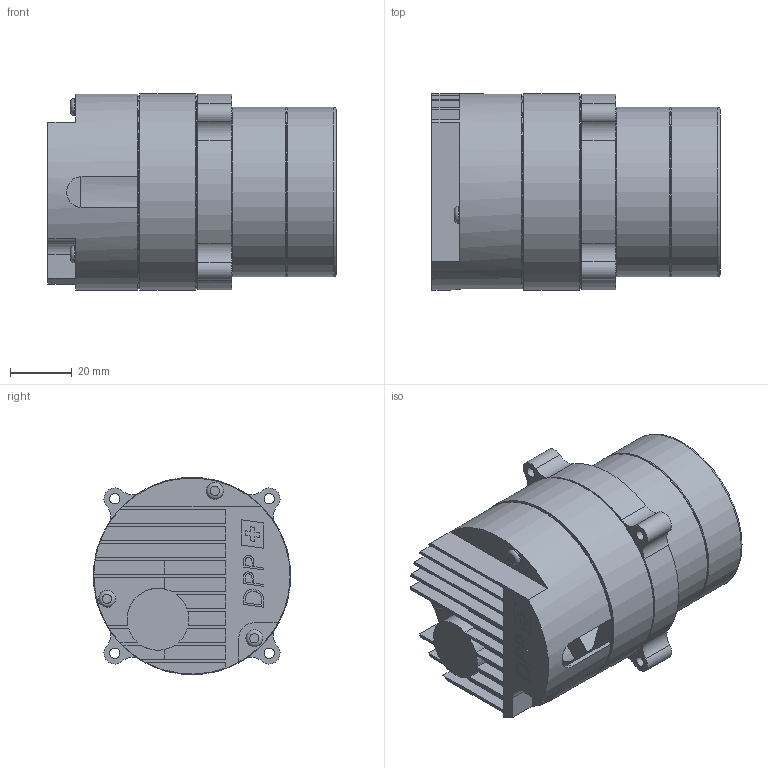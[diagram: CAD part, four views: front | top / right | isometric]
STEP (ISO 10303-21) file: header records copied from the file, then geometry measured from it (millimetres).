
FILE_DESCRIPTION (( 'STEP AP214' ), '1' );
FILE_NAME ('Silencer 1500 - 65W Adv Motor.STEP', '2020-04-22T20:58:00', ( '' ), ( '' ), 'SwSTEP 2.0', 'SolidWorks 2019', '' );
FILE_SCHEMA (( 'AUTOMOTIVE_DESIGN' ));
Length unit declared in the file: millimetre
Products named in the file (19): Silencer 1500 - 65W Adv Motor; PD02-CU-00; PD01-SC-00; PD02-BO-00; Copy of SO0015^Adv Stator WN02; Copy of LS0003^Adv Stator WN02; Adv Stator MB; PD02-PU-01; PD02-EP-00; Copy of SO0016^Adv Stator WN02; Adv Stator CV; PD03-SC-4; Adv Stator WN02; PD02-BB-00
Assembly tree (20 placements, depth 4):
  Silencer 1500 - 65W Adv Motor
    PD02-PU-01
      PD01-SC-00
      PD02-CU-00
      PD02-BO-00
        PD02-BB-00
      PD02-EP-00
      PD01-SC-00
      PD01-SC-00
      PD01-SC-00
      PD01-SC-00
      PD01-SC-00
      Adv Stator MB
    Adv Stator WN02
      Copy of LS0003^Adv Stator WN02
      Copy of SO0015^Adv Stator WN02
      Copy of SO0016^Adv Stator WN02
    Adv Stator CV
    PD03-SC-4  x3
Bounding box: 93.36 x 63.76 x 63.76 mm (x, y, z)
Volume: 150200.9 mm3; surface area: 77262.7 mm2
Topology: 17 solids, 17 shells, 962 faces, 2533 edges, 1622 vertices
Faces by surface type: cylinder 380, plane 377, torus 92, bspline 89, cone 24
Full cylindrical faces by diameter (mm): 2.35 x6, 2.989 x12, 3 x9, 3.3 x6, 3.5 x3, 3.6 x6, 3.8 x12, 4 x12, 5.5 x9, 6 x2, 8.4 x2, 17 x1, 26 x1, 36.1 x1, 36.7 x1, 42.7 x2, 54.8 x2, 60.5 x1, 60.62 x1, 63.5 x1, 64 x1
Entity records: 32981 total; most frequent: CARTESIAN_POINT 9133, DIRECTION 4781, ORIENTED_EDGE 4662, EDGE_CURVE 2331, AXIS2_PLACEMENT_3D 1803, VERTEX_POINT 1579, EDGE_LOOP 1216, VECTOR 1175
